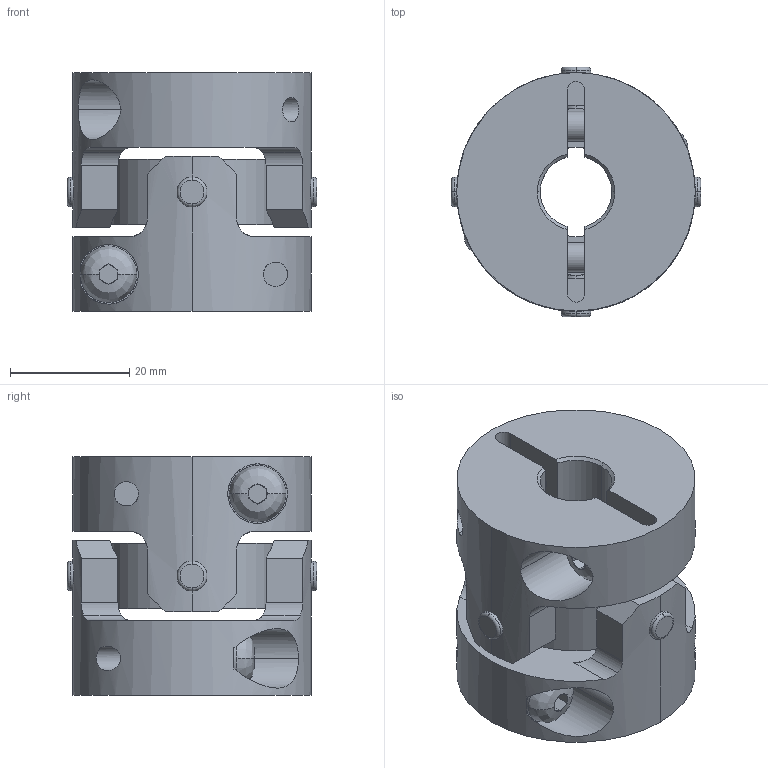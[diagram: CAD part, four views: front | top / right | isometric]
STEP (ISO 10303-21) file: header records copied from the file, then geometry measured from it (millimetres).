
FILE_DESCRIPTION((''),'2;1');
FILE_NAME('UA-40C-12×20.stp','2013-05-22T08:57:50',(''),(''),'AutoCAD STEP 2000i','AutoCAD 2000i',', , ');
FILE_SCHEMA(('CONFIG_CONTROL_DESIGN'));
Length unit declared in the file: millimetre
Products named in the file (7): UA-40C-8×18; 忣兜1; UA-4002-D18; BTN-M5; UA-4002-D08-1; UA-4002-D08; UA40-SEN
Assembly tree (8 placements, depth 3):
  UA-40C-8×18
    忣兜1
    UA-4002-D18
      BTN-M5
    UA-4002-D08-1
      BTN-M5
    UA-4002-D08
      BTN-M5
    UA40-SEN
Bounding box: 41.81 x 41.81 x 40 mm (x, y, z)
Volume: 32152.2 mm3; surface area: 15089.6 mm2
Topology: 1 solids, 1 shells, 252 faces, 654 edges, 412 vertices
Faces by surface type: plane 124, cylinder 96, cone 16, bspline 8, torus 8
Entity records: 9705 total; most frequent: CARTESIAN_POINT 3363, DIRECTION 1308, ORIENTED_EDGE 1308, EDGE_CURVE 654, AXIS2_PLACEMENT_3D 505, VERTEX_POINT 412, VECTOR 298, LINE 298
